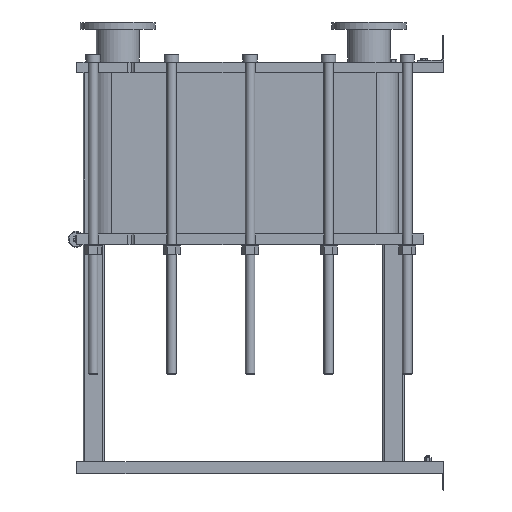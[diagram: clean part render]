
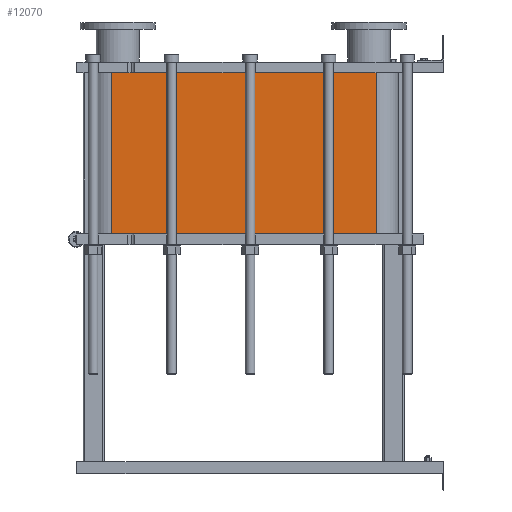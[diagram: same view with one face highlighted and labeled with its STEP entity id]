
A CAD part, left-side view. The second image highlights one B-rep face of the part: STEP entity #12070.
In plain terms, the highlighted planar face has unit normal (-1, 0, 0).
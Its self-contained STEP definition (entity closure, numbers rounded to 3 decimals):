
#1064=LINE('',#21140,#2164);
#1065=LINE('',#21144,#2165);
#1066=LINE('',#21146,#2166);
#1067=LINE('',#21147,#2167);
#2164=VECTOR('',#15790,10.);
#2165=VECTOR('',#15795,10.);
#2166=VECTOR('',#15796,10.);
#2167=VECTOR('',#15797,10.);
#3304=FACE_OUTER_BOUND('',#4091,.T.);
#4091=EDGE_LOOP('',(#9793,#9794,#9795,#9796));
#5677=VERTEX_POINT('',#21137);
#5678=VERTEX_POINT('',#21139);
#5679=VERTEX_POINT('',#21143);
#5680=VERTEX_POINT('',#21145);
#7118=EDGE_CURVE('',#5678,#5677,#1064,.T.);
#7120=EDGE_CURVE('',#5677,#5679,#1065,.T.);
#7121=EDGE_CURVE('',#5680,#5679,#1066,.T.);
#7122=EDGE_CURVE('',#5680,#5678,#1067,.T.);
#9793=ORIENTED_EDGE('',*,*,#7120,.T.);
#9794=ORIENTED_EDGE('',*,*,#7121,.F.);
#9795=ORIENTED_EDGE('',*,*,#7122,.T.);
#9796=ORIENTED_EDGE('',*,*,#7118,.T.);
#11441=PLANE('',#13191);
#12070=ADVANCED_FACE('',(#3304),#11441,.T.);
#13191=AXIS2_PLACEMENT_3D('',#21142,#15793,#15794);
#15790=DIRECTION('',(0.,0.,-1.));
#15793=DIRECTION('center_axis',(-1.,0.,0.));
#15794=DIRECTION('ref_axis',(0.,1.,0.));
#15795=DIRECTION('',(0.,-1.,0.));
#15796=DIRECTION('',(0.,0.,-1.));
#15797=DIRECTION('',(0.,1.,0.));
#21137=CARTESIAN_POINT('',(-248.152,1243.818,-603.75));
#21139=CARTESIAN_POINT('',(-248.152,1243.818,0.));
#21140=CARTESIAN_POINT('',(-248.152,1243.818,0.));
#21142=CARTESIAN_POINT('Origin',(-248.152,251.818,0.));
#21143=CARTESIAN_POINT('',(-248.152,251.818,-603.75));
#21144=CARTESIAN_POINT('',(-248.152,499.818,-603.75));
#21145=CARTESIAN_POINT('',(-248.152,251.818,0.));
#21146=CARTESIAN_POINT('',(-248.152,251.818,0.));
#21147=CARTESIAN_POINT('',(-248.152,251.818,0.));
